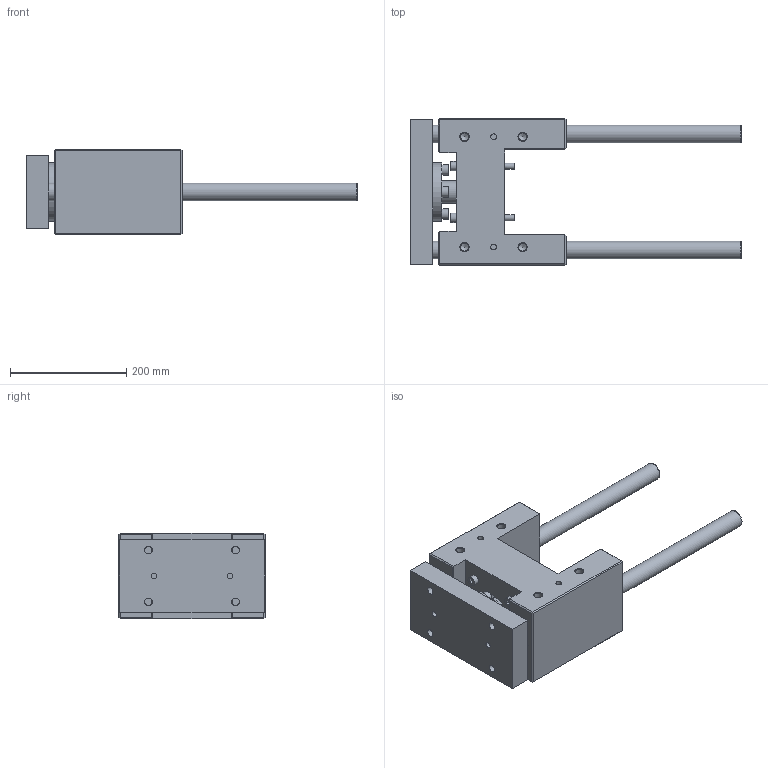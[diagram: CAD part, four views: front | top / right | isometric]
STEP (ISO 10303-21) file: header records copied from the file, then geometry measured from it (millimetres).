
FILE_DESCRIPTION( ( 'STEP AP214' ), '1' );
FILE_NAME( 'U:/Etudes/Top Solid/BIBLIO 3D AVM/TOP/PNEUMATIQUE/GUIDAGES/Type 32 (en H)/R_Renforcée/329R5230.step', '2005-05-27T09:25:25', ( ' ' ), ( ' ' ), 'XStep 1.0', ' ', ' ' );
FILE_SCHEMA( ( 'automotive_design' ) );
Length unit declared in the file: metre
Products named in the file (2): 1; 2
Bounding box: 570 x 252 x 148 mm (x, y, z)
Volume: 6729071.7 mm3; surface area: 561501.2 mm2
Topology: 2 solids, 7 shells, 239 faces, 527 edges, 341 vertices
Faces by surface type: plane 149, cylinder 69, cone 21
Full cylindrical faces by diameter (mm): 10 x12, 10.106 x4, 11 x4, 12 x8, 13 x8, 13.835 x8, 16 x4, 18 x4, 18.376 x2, 20 x4, 30 x4, 39 x1, 42 x1, 55 x1, 57 x1, 60 x1, 65 x1, 100 x1
Entity records: 7933 total; most frequent: CARTESIAN_POINT 1201, DIRECTION 1000, ORIENTED_EDGE 786, EDGE_CURVE 393, EDGE_LOOP 392, AXIS2_PLACEMENT_3D 374, FACE_OUTER_BOUND 308, VERTEX_POINT 303
